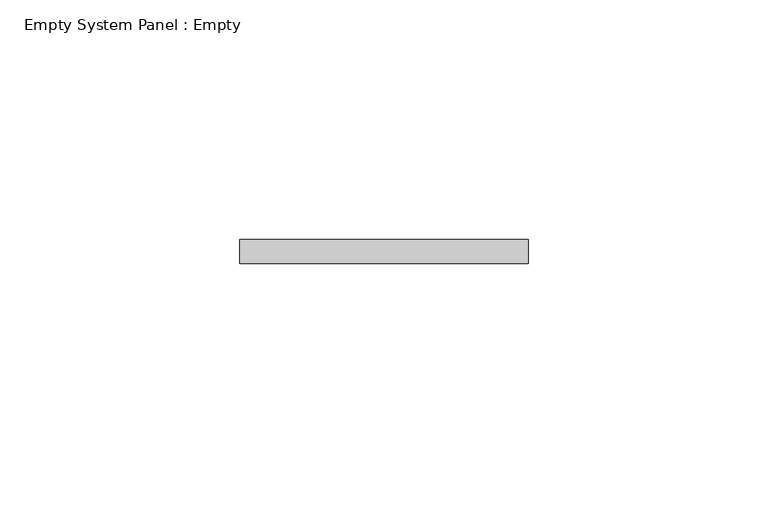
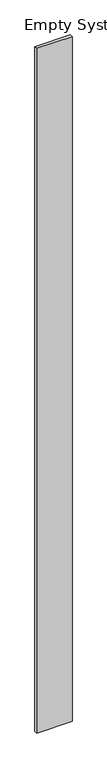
"""IFC4 building model written with IfcOpenShell, lengths in millimetres: plate geometry, Empty System Panel : Empty."""

from ifc_helpers import new_model, si_unit, origin, origin_with_axes, place, context, project, spatial, polyline, outline, extrude, source, transform, mapped, element, save


def empty_system_panel_empty_58314f5d(model_context):
    return source(origin(), model_context, "Body", "SweptSolid", [
        extrude(outline(polyline([(30.0000002, 97.5), (-30.0000002, 97.5), (-30.0000002, 102.5), (30.0000002, 102.5), (30.0000002, 97.5)])), origin_with_axes(), (0.0, 0.0, 1.0), 1225.5020157),
    ])


if __name__ == "__main__":
    model = new_model("IFC4")
    model_context = context("Model", 3, world=origin())
    ifc_project = project(units=[si_unit("LENGTHUNIT", "METRE", prefix="MILLI")], contexts=[model_context])
    site = spatial("IfcSite", under=ifc_project)
    building = spatial("IfcBuilding", under=site)
    placement = place(None, origin())
    empty_system_panel_empty_shape = empty_system_panel_empty_58314f5d(model_context)
    element("IfcPlate", 1, ObjectType="Empty System Panel : Empty", at=placement, inside=building, context=model_context, shape_type="MappedRepresentation", body=[
        mapped(empty_system_panel_empty_shape, transform((0.0, 0.0, 0.0), x_axis=(1.0, 0.0, 0.0), y_axis=(0.0, 1.0, 0.0), z_axis=(0.0, 0.0, 1.0))),
    ])
    save(model, "model.ifc")
